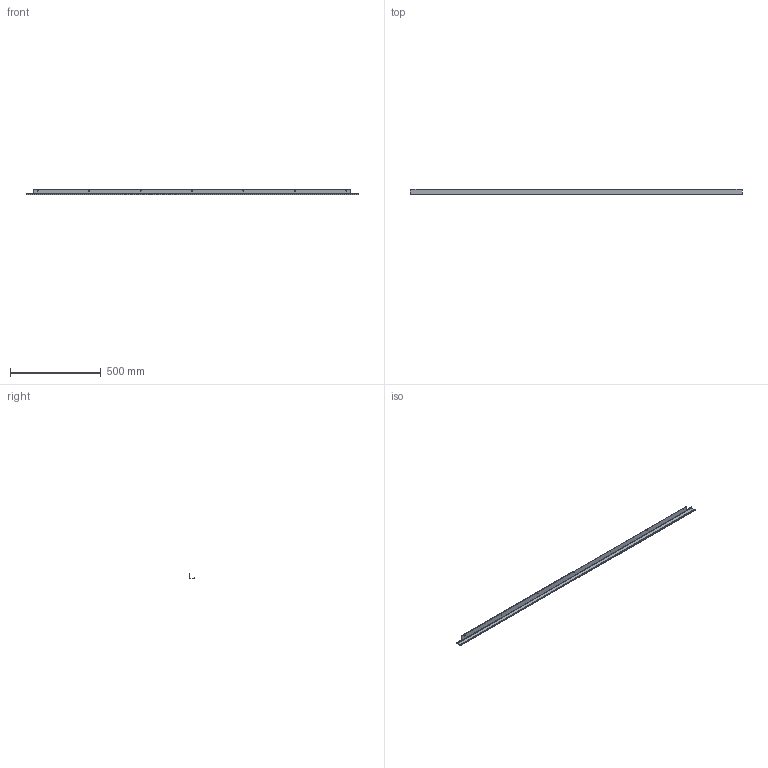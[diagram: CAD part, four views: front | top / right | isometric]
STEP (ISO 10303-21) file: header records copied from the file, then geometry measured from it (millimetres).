
FILE_DESCRIPTION (( 'STEP AP203' ), '1' );
FILE_NAME ('adk72hh.STEP', '2014-01-08T21:51:00', ( 'User' ), ( 'Pentair Inc' ), 'SwSTEP 2.0', 'SolidWorks 2010', '' );
FILE_SCHEMA (( 'CONFIG_CONTROL_DESIGN' ));
Length unit declared in the file: inch
Products named in the file (2): adk72hh; 89100646
Assembly tree (1 placements, depth 2):
  adk72hh
    89100646
Bounding box: 1825.62 x 31.1 x 32.62 mm (x, y, z)
Volume: 216158.9 mm3; surface area: 243530.3 mm2
Topology: 1 solids, 1 shells, 46 faces, 116 edges, 72 vertices
Faces by surface type: cylinder 24, plane 22
Entity records: 1608 total; most frequent: DIRECTION 264, CARTESIAN_POINT 238, ORIENTED_EDGE 232, EDGE_CURVE 116, AXIS2_PLACEMENT_3D 98, VERTEX_POINT 72, VECTOR 68, LINE 68
